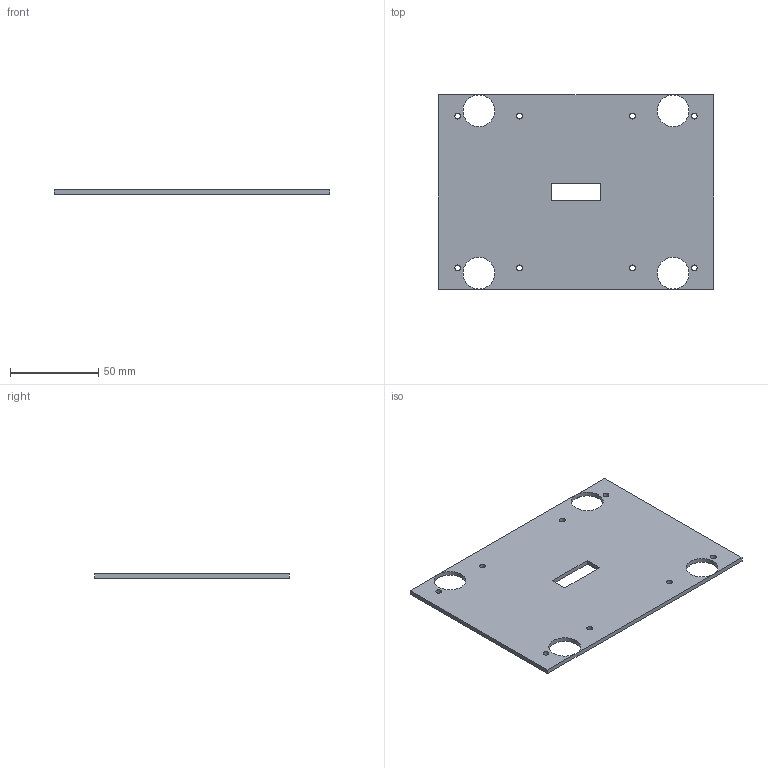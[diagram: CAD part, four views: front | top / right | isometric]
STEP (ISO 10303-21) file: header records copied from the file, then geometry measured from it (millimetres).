
FILE_DESCRIPTION(('FreeCAD Model'),'2;1');
FILE_NAME('Open CASCADE Shape Model','2026-11-06T11:39:14',('FreeCAD'),( 'FreeCAD'),'Open CASCADE STEP processor 7.8','FreeCAD','Unknown');
FILE_SCHEMA(('AUTOMOTIVE_DESIGN { 1 0 10303 214 1 1 1 1 }'));
Length unit declared in the file: millimetre
Products named in the file (1): Open CASCADE STEP translator 7.8 15
Bounding box: 156 x 110 x 2.5 mm (x, y, z)
Volume: 39484.3 mm3; surface area: 33880.2 mm2
Topology: 1 solids, 1 shells, 22 faces, 84 edges, 52 vertices
Faces by surface type: cylinder 12, plane 10
Full cylindrical faces by diameter (mm): 3.3 x8, 18 x4
Entity records: 902 total; most frequent: ORIENTED_EDGE 152, CARTESIAN_POINT 151, DIRECTION 150, EDGE_CURVE 76, AXIS2_PLACEMENT_3D 55, FACE_BOUND 48, EDGE_LOOP 48, VERTEX_POINT 48
